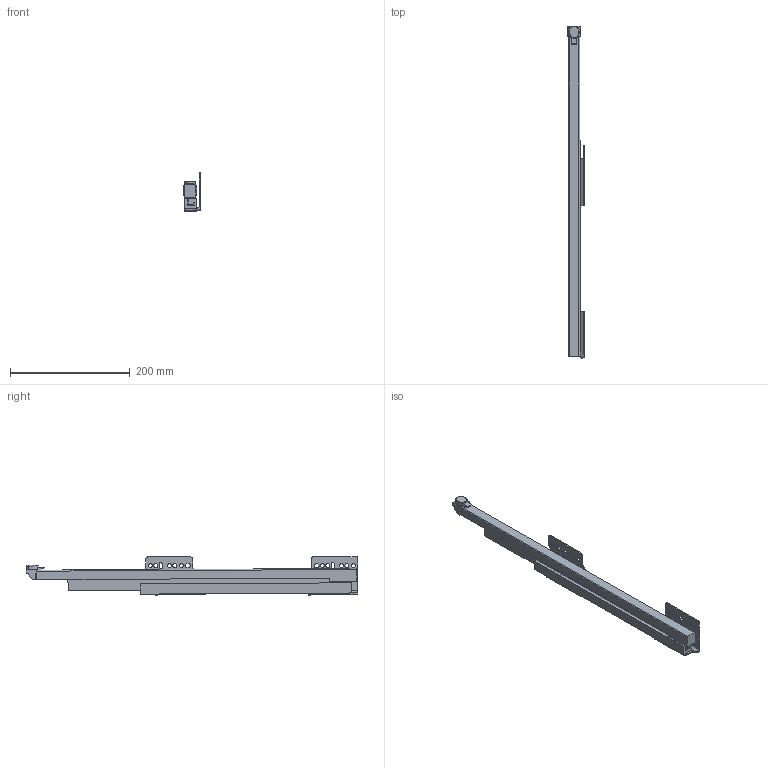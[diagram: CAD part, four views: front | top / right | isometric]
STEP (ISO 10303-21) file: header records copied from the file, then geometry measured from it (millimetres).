
FILE_DESCRIPTION (( 'STEP AP214' ), '1' );
FILE_NAME ('_IMOS_NOVA-Pro_KS_TL_EB29mm_RE_NL550.step', '2010-07-15T11:34:55', ( 'grass' ), ( '' ), 'SwSTEP 2.0', 'SolidWorks 2009', '' );
FILE_SCHEMA (( 'AUTOMOTIVE_DESIGN' ));
Length unit declared in the file: millimetre
Products named in the file (1): _IMOS_NOVA-Pro_KS_TL_EB29mm_RE_NL550
Bounding box: 27.95 x 555.55 x 64.46 mm (x, y, z)
Volume: 378105.5 mm3; surface area: 158675 mm2
Topology: 8 solids, 8 shells, 185 faces, 496 edges, 328 vertices
Faces by surface type: plane 116, cylinder 64, torus 5
Entity records: 5964 total; most frequent: CARTESIAN_POINT 1097, ORIENTED_EDGE 992, DIRECTION 972, EDGE_CURVE 496, LINE 350, VECTOR 350, VERTEX_POINT 328, AXIS2_PLACEMENT_3D 311
